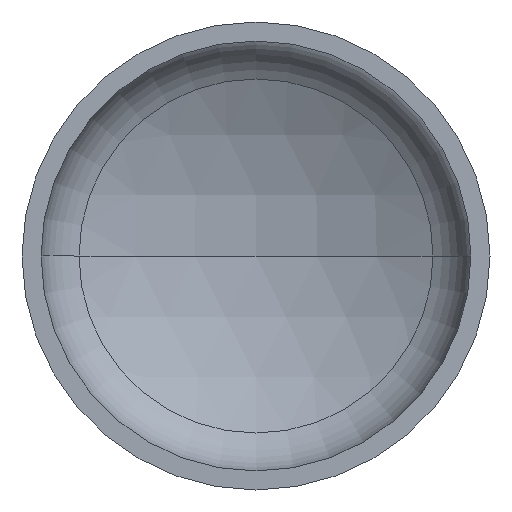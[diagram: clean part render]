
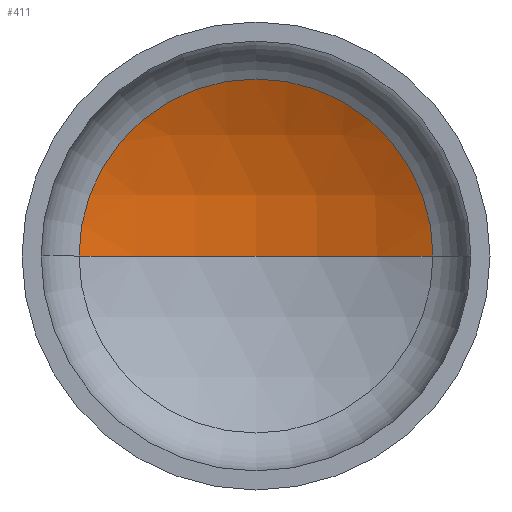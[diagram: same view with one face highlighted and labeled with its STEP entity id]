
A CAD part, front view. The second image highlights one B-rep face of the part: STEP entity #411.
In plain terms, the highlighted spherical face has radius 2240 mm.
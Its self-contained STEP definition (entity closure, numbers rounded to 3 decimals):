
#4 = AXIS2_PLACEMENT_3D ( 'NONE', #78, #109, #111 ) ;
#5 = AXIS2_PLACEMENT_3D ( 'NONE', #152, #153, #15 ) ;
#9 = EDGE_LOOP ( 'NONE', ( #394, #216, #268 ) ) ;
#15 = DIRECTION ( 'NONE',  ( -1., 0., 0. ) ) ;
#33 = AXIS2_PLACEMENT_3D ( 'NONE', #215, #217, #184 ) ;
#42 = VERTEX_POINT ( 'NONE', #297 ) ;
#71 = EDGE_CURVE ( 'NONE', #42, #82, #302, .T. ) ;
#78 = CARTESIAN_POINT ( 'NONE',  ( 0., -1519.793, 0. ) ) ;
#82 = VERTEX_POINT ( 'NONE', #129 ) ;
#106 = AXIS2_PLACEMENT_3D ( 'NONE', #308, #361, #336 ) ;
#109 = DIRECTION ( 'NONE',  ( 0., 0., 1. ) ) ;
#111 = DIRECTION ( 'NONE',  ( 1., 0., 0. ) ) ;
#129 = CARTESIAN_POINT ( 'NONE',  ( -1059.359, 453.873, 0. ) ) ;
#152 = CARTESIAN_POINT ( 'NONE',  ( 0., -1519.793, 0. ) ) ;
#153 = DIRECTION ( 'NONE',  ( 0., 0., -1. ) ) ;
#174 = VERTEX_POINT ( 'NONE', #228 ) ;
#184 = DIRECTION ( 'NONE',  ( 1., 0., 0. ) ) ;
#215 = CARTESIAN_POINT ( 'NONE',  ( 0., 453.873, 0. ) ) ;
#216 = ORIENTED_EDGE ( 'NONE', *, *, #352, .T. ) ;
#217 = DIRECTION ( 'NONE',  ( 0., -1., 0. ) ) ;
#228 = CARTESIAN_POINT ( 'NONE',  ( 0., 720.207, 0. ) ) ;
#250 = SPHERICAL_SURFACE ( 'NONE', #106, 2240. ) ;
#268 = ORIENTED_EDGE ( 'NONE', *, *, #71, .T. ) ;
#272 = CIRCLE ( 'NONE', #5, 2240. ) ;
#297 = CARTESIAN_POINT ( 'NONE',  ( 1059.359, 453.873, 0. ) ) ;
#302 = CIRCLE ( 'NONE', #33, 1059.359 ) ;
#306 = FACE_OUTER_BOUND ( 'NONE', #9, .T. ) ;
#308 = CARTESIAN_POINT ( 'NONE',  ( 0., -1519.793, 0. ) ) ;
#322 = CIRCLE ( 'NONE', #4, 2240. ) ;
#336 = DIRECTION ( 'NONE',  ( -1., 0., 0. ) ) ;
#352 = EDGE_CURVE ( 'NONE', #174, #42, #272, .T. ) ;
#357 = EDGE_CURVE ( 'NONE', #174, #82, #322, .T. ) ;
#361 = DIRECTION ( 'NONE',  ( 0., 0., -1. ) ) ;
#394 = ORIENTED_EDGE ( 'NONE', *, *, #357, .F. ) ;
#411 = ADVANCED_FACE ( 'NONE', ( #306 ), #250, .F. ) ;
